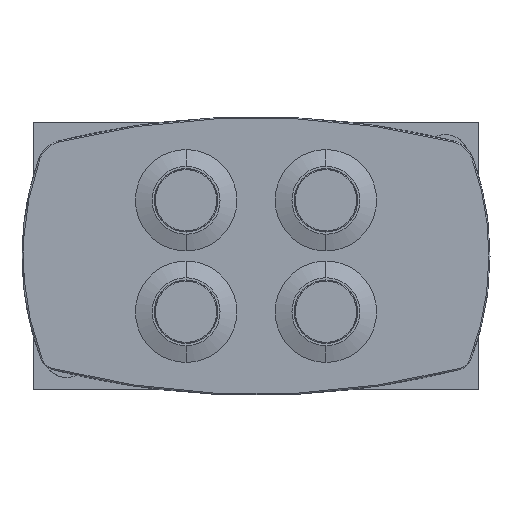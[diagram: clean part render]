
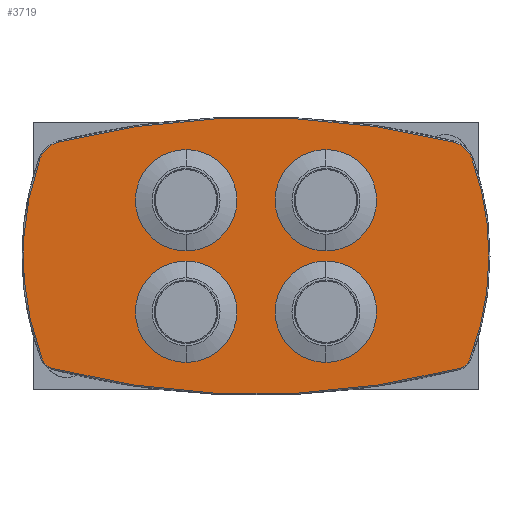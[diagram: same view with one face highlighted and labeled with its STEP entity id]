
A CAD part, front view. The second image highlights one B-rep face of the part: STEP entity #3719.
In plain terms, the highlighted planar face has unit normal (0, -1, 0).
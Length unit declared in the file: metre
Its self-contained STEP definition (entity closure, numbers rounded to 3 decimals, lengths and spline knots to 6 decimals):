
#297=CARTESIAN_POINT('',(0.01255,0.,0.01));
#298=DIRECTION('',(0.,1.,0.));
#299=DIRECTION('',(0.,0.,1.));
#300=AXIS2_PLACEMENT_3D('',#297,#298,#299);
#307=CARTESIAN_POINT('',(0.01,0.,0.));
#308=DIRECTION('',(0.,-1.,0.));
#309=DIRECTION('',(-0.942,0.,0.336));
#310=AXIS2_PLACEMENT_3D('',#307,#308,#309);
#312=CARTESIAN_POINT('',(-0.034264,0.,0.015801));
#313=DIRECTION('',(0.,-1.,0.));
#314=DIRECTION('',(-0.241,0.,0.97));
#315=AXIS2_PLACEMENT_3D('',#312,#313,#314);
#317=CARTESIAN_POINT('',(0.,0.,-0.1219));
#318=DIRECTION('',(0.,-1.,0.));
#319=DIRECTION('',(0.241,0.,0.97));
#320=AXIS2_PLACEMENT_3D('',#317,#318,#319);
#322=CARTESIAN_POINT('',(0.034264,0.,0.015801));
#323=DIRECTION('',(0.,-1.,0.));
#324=DIRECTION('',(0.942,0.,0.336));
#325=AXIS2_PLACEMENT_3D('',#322,#323,#324);
#327=CARTESIAN_POINT('',(-0.01,0.,0.));
#328=DIRECTION('',(0.,-1.,0.));
#329=DIRECTION('',(1.,0.,0.));
#330=AXIS2_PLACEMENT_3D('',#327,#328,#329);
#332=CARTESIAN_POINT('',(-0.01,0.,0.));
#333=DIRECTION('',(0.,-1.,0.));
#334=DIRECTION('',(0.934,0.,-0.357));
#335=AXIS2_PLACEMENT_3D('',#332,#333,#334);
#337=CARTESIAN_POINT('',(0.035775,0.,-0.017482));
#338=DIRECTION('',(0.,-1.,0.));
#339=DIRECTION('',(0.249,0.,-0.969));
#340=AXIS2_PLACEMENT_3D('',#337,#338,#339);
#342=CARTESIAN_POINT('',(0.,0.,0.1219));
#343=DIRECTION('',(0.,-1.,0.));
#344=DIRECTION('',(-0.249,0.,-0.969));
#345=AXIS2_PLACEMENT_3D('',#342,#343,#344);
#347=CARTESIAN_POINT('',(-0.035775,0.,-0.017482));
#348=DIRECTION('',(0.,-1.,0.));
#349=DIRECTION('',(-0.934,0.,-0.357));
#350=AXIS2_PLACEMENT_3D('',#347,#348,#349);
#1417=CARTESIAN_POINT('',(0.01255,0.,0.01));
#1418=DIRECTION('',(0.,1.,0.));
#1419=DIRECTION('',(0.,0.,-1.));
#1420=AXIS2_PLACEMENT_3D('',#1417,#1418,#1419);
#1435=CARTESIAN_POINT('',(0.01255,0.,-0.01));
#1436=DIRECTION('',(0.,1.,0.));
#1437=DIRECTION('',(0.,0.,1.));
#1438=AXIS2_PLACEMENT_3D('',#1435,#1436,#1437);
#1445=CARTESIAN_POINT('',(0.01255,0.,-0.01));
#1446=DIRECTION('',(0.,1.,0.));
#1447=DIRECTION('',(0.,0.,-1.));
#1448=AXIS2_PLACEMENT_3D('',#1445,#1446,#1447);
#1517=CARTESIAN_POINT('',(-0.01255,0.,-0.01));
#1518=DIRECTION('',(0.,1.,0.));
#1519=DIRECTION('',(0.,0.,1.));
#1520=AXIS2_PLACEMENT_3D('',#1517,#1518,#1519);
#1527=CARTESIAN_POINT('',(-0.01255,0.,-0.01));
#1528=DIRECTION('',(0.,1.,0.));
#1529=DIRECTION('',(0.,0.,-1.));
#1530=AXIS2_PLACEMENT_3D('',#1527,#1528,#1529);
#1599=CARTESIAN_POINT('',(-0.01255,0.,0.01));
#1600=DIRECTION('',(0.,1.,0.));
#1601=DIRECTION('',(0.,0.,1.));
#1602=AXIS2_PLACEMENT_3D('',#1599,#1600,#1601);
#1609=CARTESIAN_POINT('',(-0.01255,0.,0.01));
#1610=DIRECTION('',(0.,1.,0.));
#1611=DIRECTION('',(0.,0.,-1.));
#1612=AXIS2_PLACEMENT_3D('',#1609,#1610,#1611);
#2681=CARTESIAN_POINT('',(-0.036471,0.,-0.020194));
#2682=CARTESIAN_POINT('',(0.036471,0.,-0.020194));
#2683=VERTEX_POINT('',#2681);
#2684=VERTEX_POINT('',#2682);
#2685=CARTESIAN_POINT('',(0.038391,0.,-0.018481));
#2686=VERTEX_POINT('',#2685);
#2687=CARTESIAN_POINT('',(0.0418,0.,0.));
#2688=CARTESIAN_POINT('',(0.038785,0.,0.017415));
#2689=VERTEX_POINT('',#2687);
#2690=VERTEX_POINT('',#2688);
#2691=CARTESIAN_POINT('',(0.035423,0.,0.020459));
#2692=VERTEX_POINT('',#2691);
#2693=CARTESIAN_POINT('',(-0.035423,0.,0.020459));
#2694=VERTEX_POINT('',#2693);
#2695=CARTESIAN_POINT('',(-0.038785,0.,0.017415));
#2696=VERTEX_POINT('',#2695);
#2697=CARTESIAN_POINT('',(-0.038391,0.,-0.018481));
#2698=VERTEX_POINT('',#2697);
#3102=CARTESIAN_POINT('',(0.01255,0.,0.0191));
#3103=CARTESIAN_POINT('',(0.01255,0.,0.0009));
#3104=VERTEX_POINT('',#3102);
#3105=VERTEX_POINT('',#3103);
#3114=CARTESIAN_POINT('',(0.01255,0.,-0.0009));
#3115=CARTESIAN_POINT('',(0.01255,0.,-0.0191));
#3116=VERTEX_POINT('',#3114);
#3117=VERTEX_POINT('',#3115);
#3126=CARTESIAN_POINT('',(-0.01255,0.,-0.0009));
#3127=CARTESIAN_POINT('',(-0.01255,0.,-0.0191));
#3128=VERTEX_POINT('',#3126);
#3129=VERTEX_POINT('',#3127);
#3138=CARTESIAN_POINT('',(-0.01255,0.,0.0191));
#3139=CARTESIAN_POINT('',(-0.01255,0.,0.0009));
#3140=VERTEX_POINT('',#3138);
#3141=VERTEX_POINT('',#3139);
#3671=CARTESIAN_POINT('',(-0.005,0.,0.06095));
#3672=DIRECTION('',(0.,-1.,0.));
#3673=DIRECTION('',(-1.,0.,0.));
#3674=AXIS2_PLACEMENT_3D('',#3671,#3672,#3673);
#3675=PLANE('',#3674);
#3677=ORIENTED_EDGE('',*,*,#3676,.F.);
#3679=ORIENTED_EDGE('',*,*,#3678,.F.);
#3681=ORIENTED_EDGE('',*,*,#3680,.F.);
#3683=ORIENTED_EDGE('',*,*,#3682,.F.);
#3685=ORIENTED_EDGE('',*,*,#3684,.F.);
#3687=ORIENTED_EDGE('',*,*,#3686,.F.);
#3689=ORIENTED_EDGE('',*,*,#3688,.F.);
#3691=ORIENTED_EDGE('',*,*,#3690,.F.);
#3693=ORIENTED_EDGE('',*,*,#3692,.F.);
#3694=EDGE_LOOP('',(#3677,#3679,#3681,#3683,#3685,#3687,#3689,#3691,#3693));
#3695=FACE_OUTER_BOUND('',#3694,.F.);
#3696=ORIENTED_EDGE('',*,*,#3661,.F.);
#3698=ORIENTED_EDGE('',*,*,#3697,.F.);
#3699=EDGE_LOOP('',(#3696,#3698));
#3700=FACE_BOUND('',#3699,.F.);
#3702=ORIENTED_EDGE('',*,*,#3701,.F.);
#3704=ORIENTED_EDGE('',*,*,#3703,.F.);
#3705=EDGE_LOOP('',(#3702,#3704));
#3706=FACE_BOUND('',#3705,.F.);
#3708=ORIENTED_EDGE('',*,*,#3707,.F.);
#3710=ORIENTED_EDGE('',*,*,#3709,.F.);
#3711=EDGE_LOOP('',(#3708,#3710));
#3712=FACE_BOUND('',#3711,.F.);
#3714=ORIENTED_EDGE('',*,*,#3713,.F.);
#3716=ORIENTED_EDGE('',*,*,#3715,.F.);
#3717=EDGE_LOOP('',(#3714,#3716));
#3718=FACE_BOUND('',#3717,.F.);
#3719=ADVANCED_FACE('',(#3695,#3700,#3706,#3712,#3718),#3675,.T.);
#301=CIRCLE('',#300,0.0091);
#311=CIRCLE('',#310,0.0518);
#316=CIRCLE('',#315,0.0048);
#321=CIRCLE('',#320,0.1467);
#326=CIRCLE('',#325,0.0048);
#331=CIRCLE('',#330,0.0518);
#336=CIRCLE('',#335,0.0518);
#341=CIRCLE('',#340,0.0028);
#346=CIRCLE('',#345,0.1467);
#351=CIRCLE('',#350,0.0028);
#1421=CIRCLE('',#1420,0.0091);
#1439=CIRCLE('',#1438,0.0091);
#1449=CIRCLE('',#1448,0.0091);
#1521=CIRCLE('',#1520,0.0091);
#1531=CIRCLE('',#1530,0.0091);
#1603=CIRCLE('',#1602,0.0091);
#1613=CIRCLE('',#1612,0.0091);
#3661=EDGE_CURVE('',#3104,#3105,#301,.T.);
#3676=EDGE_CURVE('',#2696,#2698,#311,.T.);
#3678=EDGE_CURVE('',#2694,#2696,#316,.T.);
#3680=EDGE_CURVE('',#2692,#2694,#321,.T.);
#3682=EDGE_CURVE('',#2690,#2692,#326,.T.);
#3684=EDGE_CURVE('',#2689,#2690,#331,.T.);
#3686=EDGE_CURVE('',#2686,#2689,#336,.T.);
#3688=EDGE_CURVE('',#2684,#2686,#341,.T.);
#3690=EDGE_CURVE('',#2683,#2684,#346,.T.);
#3692=EDGE_CURVE('',#2698,#2683,#351,.T.);
#3697=EDGE_CURVE('',#3105,#3104,#1421,.T.);
#3701=EDGE_CURVE('',#3116,#3117,#1439,.T.);
#3703=EDGE_CURVE('',#3117,#3116,#1449,.T.);
#3707=EDGE_CURVE('',#3128,#3129,#1521,.T.);
#3709=EDGE_CURVE('',#3129,#3128,#1531,.T.);
#3713=EDGE_CURVE('',#3140,#3141,#1603,.T.);
#3715=EDGE_CURVE('',#3141,#3140,#1613,.T.);
